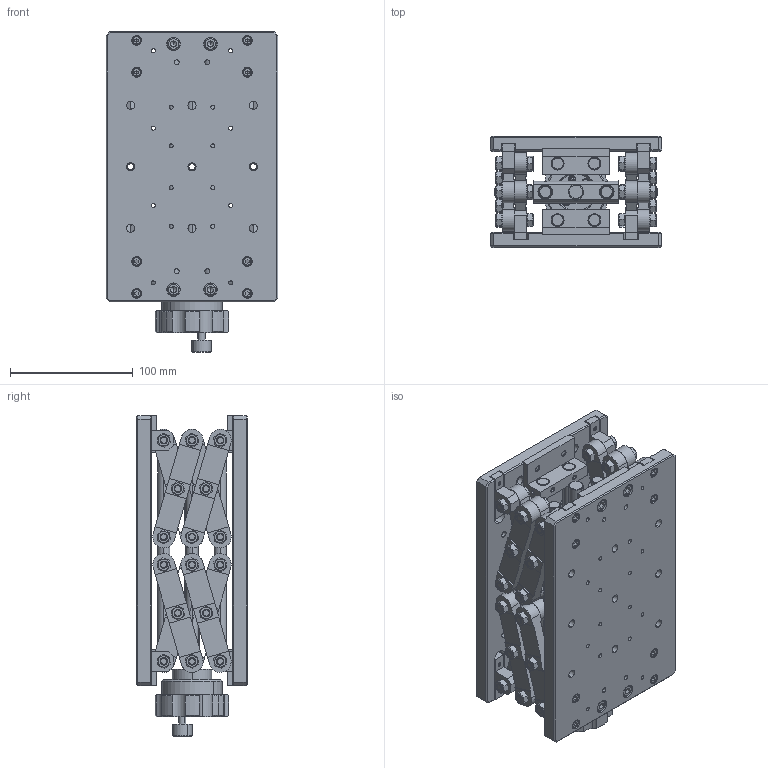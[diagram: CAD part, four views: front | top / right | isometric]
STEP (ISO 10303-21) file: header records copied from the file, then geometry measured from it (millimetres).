
FILE_DESCRIPTION (( 'STEP AP203' ), '1' );
FILE_NAME ('ZT409MS120-0.STEP', '2020-09-24T01:57:05', ( 'SALES' ), ( 'Microsoft' ), 'SwSTEP 2.0', 'SolidWorks 2016', '' );
FILE_SCHEMA (( 'CONFIG_CONTROL_DESIGN' ));
Products named in the file (1): ZT409MS120-0
Bounding box: 140 x 90 x 261 mm (x, y, z)
Surface area: 316758 mm2 (no closed solid volume)
Topology: 0 solids, 203 shells, 1816 faces, 5645 edges, 3894 vertices
Faces by surface type: plane 999, cylinder 415, cone 346, torus 56
Entity records: 66829 total; most frequent: CARTESIAN_POINT 16770, DIRECTION 10601, ORIENTED_EDGE 9117, EDGE_CURVE 5599, VERTEX_POINT 3894, AXIS2_PLACEMENT_3D 3729, LINE 3143, VECTOR 3143
